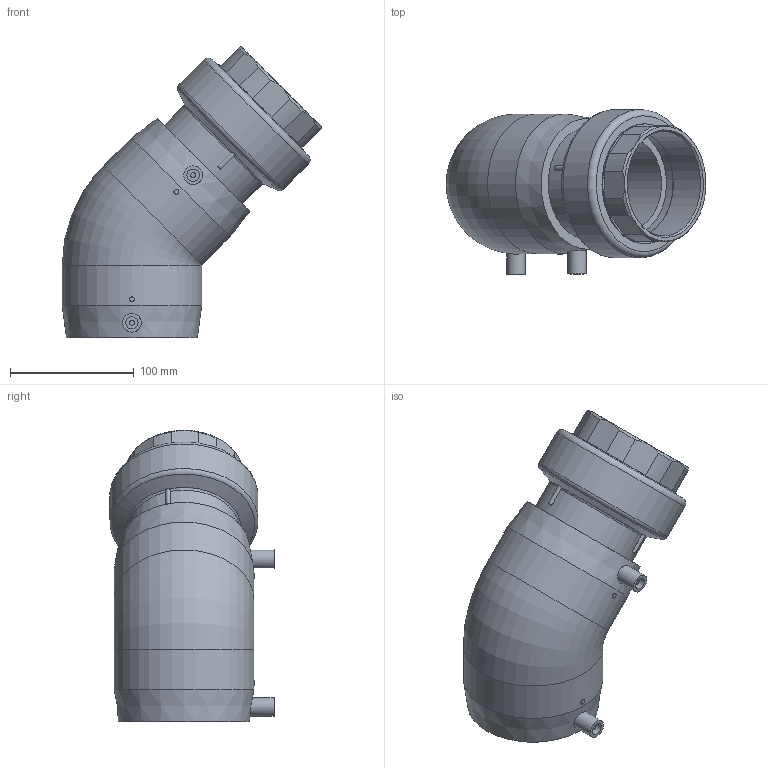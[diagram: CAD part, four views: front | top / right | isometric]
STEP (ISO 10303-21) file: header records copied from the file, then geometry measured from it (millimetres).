
FILE_DESCRIPTION(/* description */ ('Unknown'),/* implementation_level */ '2;1');
FILE_NAME(/* name */ 'GE4TFP090C',/* time_stamp */ '2021-03-02T15:52:31+01:00',/* author */ ('Unknown'),/* organization */ ('Unknown'),/* preprocessor_version */ 'ST-DEVELOPER v16.7',/* originating_system */ 'Solid Edge',/* authorisation */ 'Unknown');
FILE_SCHEMA (('AUTOMOTIVE_DESIGN {1 0 10303 214 3 1 1}'));
Length unit declared in the file: millimetre
Products named in the file (5): GE4TFP090C; GE4P090C; RTOFP090C; Parte PE 090; IOF090C
Assembly tree (4 placements, depth 3):
  GE4TFP090C
    GE4P090C
    RTOFP090C
      Parte PE 090
      IOF090C
Bounding box: 210.29 x 132.88 x 235.79 mm (x, y, z)
Volume: 1039146.9 mm3; surface area: 244497.8 mm2
Topology: 3 solids, 3 shells, 509 faces, 1222 edges, 739 vertices
Faces by surface type: bspline 231, plane 109, cylinder 95, cone 37, torus 37
Full cylindrical faces by diameter (mm): 4 x4, 10 x2, 15 x2, 73.6 x1, 79.5 x2, 84.5 x2, 84.926 x1, 90 x3, 97 x2, 98.4 x2, 104 x4, 113 x2, 120 x1
Entity records: 19008 total; most frequent: CARTESIAN_POINT 7009, ORIENTED_EDGE 2348, DIRECTION 1902, EDGE_CURVE 1174, AXIS2_PLACEMENT_3D 885, VERTEX_POINT 727, EDGE_LOOP 571, FACE_BOUND 571
